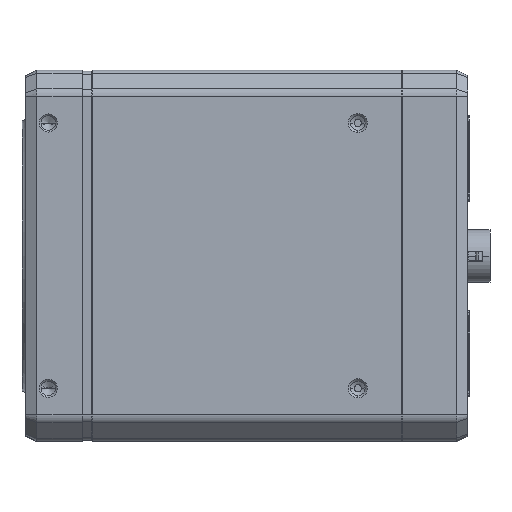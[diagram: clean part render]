
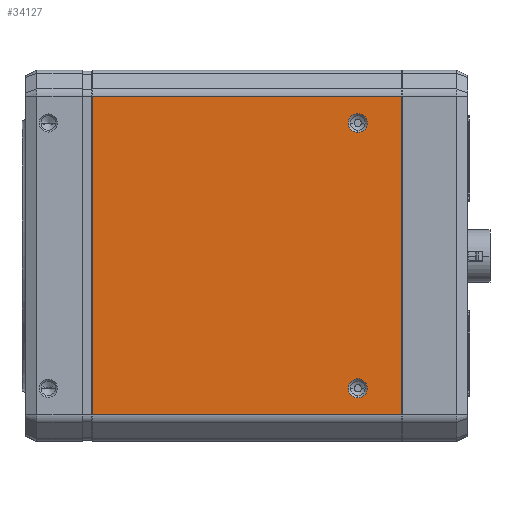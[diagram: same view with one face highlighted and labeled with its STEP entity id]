
A CAD part, top view. The second image highlights one B-rep face of the part: STEP entity #34127.
In plain terms, the highlighted planar face has unit normal (0, 0, 1).
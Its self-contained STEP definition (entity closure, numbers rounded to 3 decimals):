
#2192=DIRECTION('',(1.,0.,0.));
#2193=VECTOR('',#2192,70.);
#2194=CARTESIAN_POINT('',(15.,-35.964,42.));
#2195=LINE('',#2194,#2193);
#2388=DIRECTION('',(0.,1.,0.));
#2389=VECTOR('',#2388,71.929);
#2390=CARTESIAN_POINT('',(15.,-35.964,42.));
#2391=LINE('',#2390,#2389);
#2392=DIRECTION('',(1.,0.,0.));
#2393=VECTOR('',#2392,70.);
#2394=CARTESIAN_POINT('',(15.,35.964,42.));
#2395=LINE('',#2394,#2393);
#2396=DIRECTION('',(0.,-1.,0.));
#2397=VECTOR('',#2396,71.929);
#2398=CARTESIAN_POINT('',(85.,35.964,42.));
#2399=LINE('',#2398,#2397);
#2400=CARTESIAN_POINT('',(75.1,-30.,42.));
#2401=DIRECTION('',(0.,0.,1.));
#2402=DIRECTION('',(0.,1.,0.));
#2403=AXIS2_PLACEMENT_3D('',#2400,#2401,#2402);
#2405=CARTESIAN_POINT('',(75.1,-30.,42.));
#2406=DIRECTION('',(0.,0.,1.));
#2407=DIRECTION('',(0.,-1.,0.));
#2408=AXIS2_PLACEMENT_3D('',#2405,#2406,#2407);
#2410=CARTESIAN_POINT('',(75.1,30.,42.));
#2411=DIRECTION('',(0.,0.,1.));
#2412=DIRECTION('',(0.,1.,0.));
#2413=AXIS2_PLACEMENT_3D('',#2410,#2411,#2412);
#2415=CARTESIAN_POINT('',(75.1,30.,42.));
#2416=DIRECTION('',(0.,0.,1.));
#2417=DIRECTION('',(0.,-1.,0.));
#2418=AXIS2_PLACEMENT_3D('',#2415,#2416,#2417);
#25290=CARTESIAN_POINT('',(85.,-35.964,42.));
#25291=VERTEX_POINT('',#25290);
#25292=CARTESIAN_POINT('',(85.,35.964,42.));
#25293=VERTEX_POINT('',#25292);
#25468=CARTESIAN_POINT('',(15.,35.964,42.));
#25469=VERTEX_POINT('',#25468);
#25470=CARTESIAN_POINT('',(15.,-35.964,42.));
#25472=VERTEX_POINT('',#25470);
#25502=CARTESIAN_POINT('',(75.1,-27.85,42.));
#25503=CARTESIAN_POINT('',(75.1,-32.15,42.));
#25504=VERTEX_POINT('',#25502);
#25505=VERTEX_POINT('',#25503);
#25506=CARTESIAN_POINT('',(75.1,32.15,42.));
#25507=CARTESIAN_POINT('',(75.1,27.85,42.));
#25508=VERTEX_POINT('',#25506);
#25509=VERTEX_POINT('',#25507);
#34103=CARTESIAN_POINT('',(50.,0.,42.));
#34104=DIRECTION('',(0.,0.,1.));
#34105=DIRECTION('',(0.,-1.,0.));
#34106=AXIS2_PLACEMENT_3D('',#34103,#34104,#34105);
#34107=PLANE('',#34106);
#34108=ORIENTED_EDGE('',*,*,#33815,.F.);
#34109=ORIENTED_EDGE('',*,*,#33711,.T.);
#34111=ORIENTED_EDGE('',*,*,#34110,.T.);
#34112=ORIENTED_EDGE('',*,*,#33832,.T.);
#34113=EDGE_LOOP('',(#34108,#34109,#34111,#34112));
#34114=FACE_OUTER_BOUND('',#34113,.F.);
#34116=ORIENTED_EDGE('',*,*,#34115,.T.);
#34118=ORIENTED_EDGE('',*,*,#34117,.T.);
#34119=EDGE_LOOP('',(#34116,#34118));
#34120=FACE_BOUND('',#34119,.F.);
#34122=ORIENTED_EDGE('',*,*,#34121,.T.);
#34124=ORIENTED_EDGE('',*,*,#34123,.T.);
#34125=EDGE_LOOP('',(#34122,#34124));
#34126=FACE_BOUND('',#34125,.F.);
#34127=ADVANCED_FACE('',(#34114,#34120,#34126),#34107,.T.);
#2404=CIRCLE('',#2403,2.15);
#2409=CIRCLE('',#2408,2.15);
#2414=CIRCLE('',#2413,2.15);
#2419=CIRCLE('',#2418,2.15);
#33711=EDGE_CURVE('',#25472,#25469,#2391,.T.);
#33815=EDGE_CURVE('',#25472,#25291,#2195,.T.);
#33832=EDGE_CURVE('',#25293,#25291,#2399,.T.);
#34110=EDGE_CURVE('',#25469,#25293,#2395,.T.);
#34115=EDGE_CURVE('',#25504,#25505,#2404,.T.);
#34117=EDGE_CURVE('',#25505,#25504,#2409,.T.);
#34121=EDGE_CURVE('',#25508,#25509,#2414,.T.);
#34123=EDGE_CURVE('',#25509,#25508,#2419,.T.);
